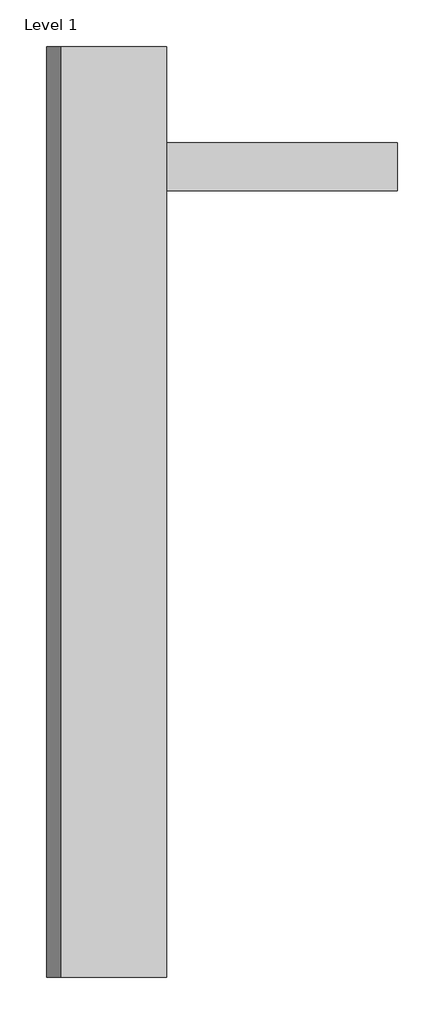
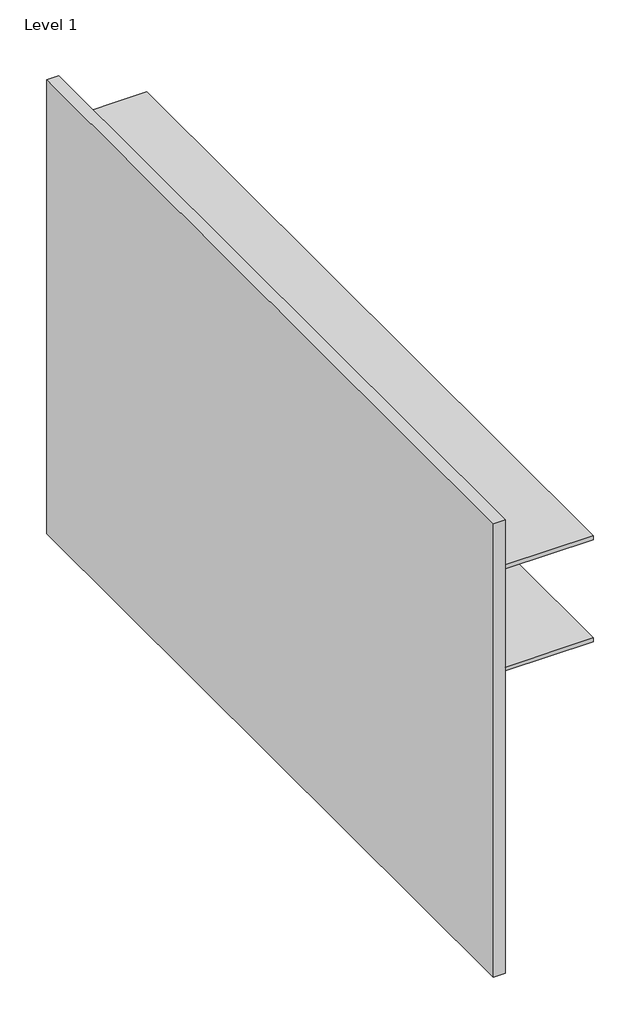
# One storey, incomplete: 2 proxies.
"""IFC4 building model written with IfcOpenShell, lengths in millimetres."""

from ifc_helpers import new_model, si_unit, origin, place, context, project, spatial, transform, mapped, element, save
from components import generic_models_434323ad, generic_models_54f86054

model = new_model("IFC4")

# Units and contexts
model_context = context("Model", 3, world=origin())
ifc_project = project(units=[si_unit("LENGTHUNIT", "METRE", prefix="MILLI")], contexts=[model_context])

# Site, building, storey
site = spatial("IfcSite", under=ifc_project)
building = spatial("IfcBuilding", under=site)
storey = spatial("IfcBuildingStorey", under=building, Name="Level 1", Elevation=0.0)

# Proxies
placement = place(None, origin())
generic_models_shape = generic_models_434323ad(model_context)
element("IfcBuildingElementProxy", 1, Name="DATUM^OFFICE 4_CREDENZA-BOTTOM RISER", ObjectType="DATUM^OFFICE 4_CREDENZA-BOTTOM RISER", at=placement, inside=storey, context=model_context, shape_type="MappedRepresentation", body=[
    mapped(generic_models_shape, transform((-2032.0, -254.0, 0.0), x_axis=(1.0, 0.0, 0.0), y_axis=(0.0, 0.0, 1.0), z_axis=(0.0, -1.0, 0.0))),
])
generic_models_2_shape = generic_models_54f86054(model_context)
element("IfcBuildingElementProxy", 2, Name="DATUM^OFFICE 4_WALL HUNG-PARTS SOLID", ObjectType="DATUM^OFFICE 4_WALL HUNG-PARTS SOLID", at=placement, inside=storey, context=model_context, shape_type="MappedRepresentation", body=[
    mapped(generic_models_2_shape, transform((-2178.05, -2457.45, 152.4), x_axis=(0.0, 1.0, 0.0), y_axis=(0.0, 0.0, 1.0), z_axis=(1.0, 0.0, 0.0))),
])

save(model, "model.ifc")
